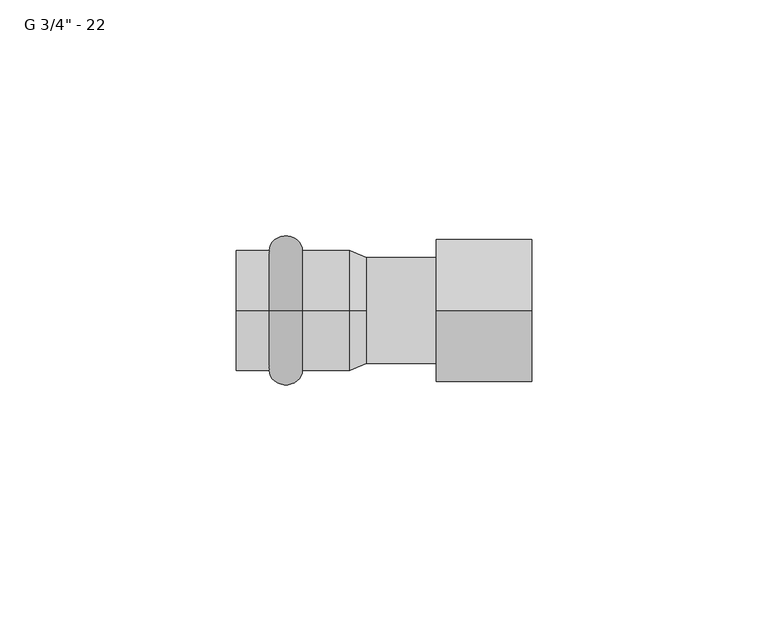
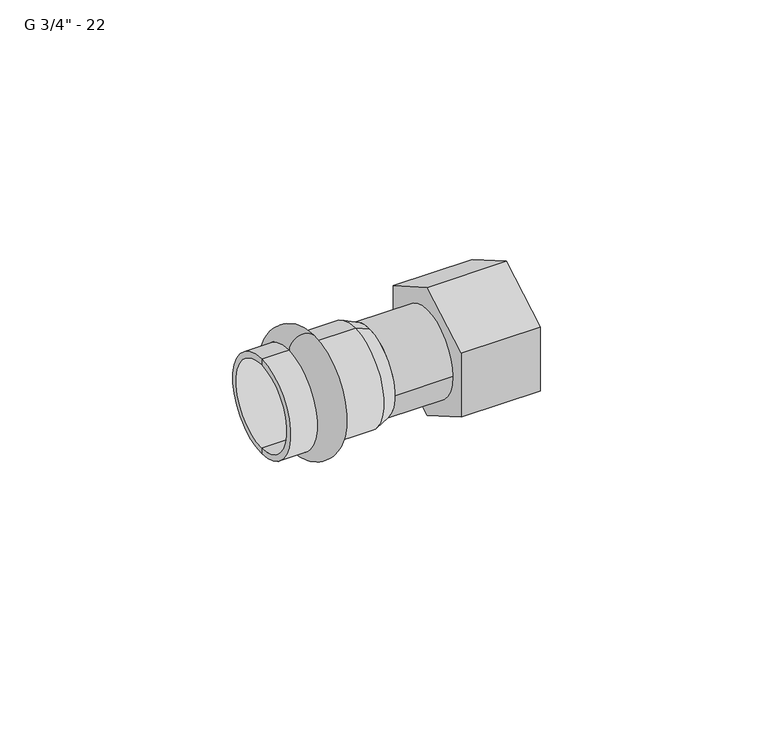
"""IFC4 building model written with IfcOpenShell, lengths in millimetres: pipe fitting geometry."""

from ifc_helpers import new_model, si_unit, point, frame, origin, origin_2d, place, context, project, spatial, polyline, circle_curve, ellipse_curve, trimmed, segment, composite_curve, outline, extrude, source, transform, mapped, element, save
from ifc_brep_helpers import plane_surface, cylinder_surface, revolved_surface, advanced_brep


def pipe_fitting_cfeb25f1(model_context):
    return source(origin(), model_context, "Body", "SolidModel", [
        advanced_brep(
        [(-17.0, 0.0, 12.75), (-17.0, 0.0, -12.75), (-10.0, 0.0, -12.75), (-10.0, 0.0, 12.75)],
        [
            (0, 1, circle_curve(frame((-17.0, 0.0, 0.0), z_axis=(-1.0, 0.0, 0.0), x_axis=(0.0, 0.0, -1.0)), 12.75)),
            (1, 2),
            (2, 3, circle_curve(frame((-10.0, 0.0, 0.0), z_axis=(1.0, 0.0, 0.0), x_axis=(0.0, 0.0, -1.0)), 12.75)),
            (3, 0),
            (1, 0, circle_curve(frame((-17.0, 0.0, 0.0), z_axis=(-1.0, 0.0, 0.0), x_axis=(0.0, 0.0, -1.0)), 12.75)),
            (3, 2, circle_curve(frame((-10.0, 0.0, 0.0), z_axis=(1.0, 0.0, 0.0), x_axis=(0.0, 0.0, -1.0)), 12.75)),
            (2, 1, ellipse_curve(frame((-13.5, 0.0, -12.75), z_axis=(0.0, 1.0, 0.0), x_axis=(-1.0, 0.0, 0.0)), 3.5, 3.1)),
            (0, 3, ellipse_curve(frame((-13.5, 0.0, 12.75), z_axis=(0.0, 1.0, 0.0), x_axis=(-1.0, 0.0, 0.0)), 3.5, 3.1)),
        ],
        [
            revolved_surface(polyline([(-10.0, 0.0, -12.75), (-17.0, 0.0, -12.75)]), (3.0, 0.0, 0.0), (1.0, 0.0, 0.0)),
            revolved_surface(trimmed(ellipse_curve(frame((-13.5, 0.0, -12.75), z_axis=(0.0, -1.0, 0.0), x_axis=(-1.0, 0.0, 0.0)), 3.5, 3.1), [point((-17.0, 0.0, -12.75))], [point((-10.0, 0.0, -12.75))], True, "CARTESIAN"), (3.0, 0.0, 0.0), (1.0, 0.0, 0.0)),
        ],
        [
            (0, [[1, 2, 3, 4]]),
            (0, [[5, -4, 6, -2]]),
            (1, [[-3, 7, -1, 8]]),
            (1, [[-6, -8, -5, -7]]),
        ],
    ),
        advanced_brep(
        [(3.5337785, 0.0, 11.25), (3.5337785, 0.0, -11.25), (0.0, 0.0, -12.75), (0.0, 0.0, 12.75), (-24.0, 0.0, 11.25), (-24.0, 0.0, -11.25), (-24.0, 0.0, 12.75), (-24.0, 0.0, -12.75)],
        [
            (0, 1, circle_curve(frame((3.5337785, 0.0, 0.0), z_axis=(-1.0, 0.0, 0.0), x_axis=(0.0, 0.0, -1.0)), 11.25)),
            (1, 2),
            (2, 3, circle_curve(frame((0.0, 0.0, 0.0), z_axis=(1.0, 0.0, 0.0), x_axis=(0.0, 0.0, -1.0)), 12.75)),
            (3, 0),
            (1, 0, circle_curve(frame((3.5337785, 0.0, 0.0), z_axis=(-1.0, 0.0, 0.0), x_axis=(0.0, 0.0, -1.0)), 11.25)),
            (3, 2, circle_curve(frame((0.0, 0.0, 0.0), z_axis=(1.0, 0.0, 0.0), x_axis=(0.0, 0.0, -1.0)), 12.75)),
            (4, 5, circle_curve(frame((-24.0, 0.0, 0.0), z_axis=(-1.0, 0.0, 0.0), x_axis=(0.0, 0.0, -1.0)), 11.25)),
            (5, 1),
            (0, 4),
            (5, 4, circle_curve(frame((-24.0, 0.0, 0.0), z_axis=(-1.0, 0.0, 0.0), x_axis=(0.0, 0.0, -1.0)), 11.25)),
            (6, 7, circle_curve(frame((-24.0, 0.0, 0.0), z_axis=(-1.0, 0.0, 0.0), x_axis=(0.0, 0.0, -1.0)), 12.75)),
            (7, 5),
            (4, 6),
            (7, 6, circle_curve(frame((-24.0, 0.0, 0.0), z_axis=(-1.0, 0.0, 0.0), x_axis=(0.0, 0.0, -1.0)), 12.75)),
            (2, 7),
            (6, 3),
        ],
        [
            revolved_surface(polyline([(0.0, 0.0, -12.75), (3.5337785, 0.0, -11.25)]), (3.0, 0.0, 0.0), (1.0, 0.0, 0.0)),
            revolved_surface(polyline([(3.5337785, 0.0, -11.25), (-24.0, 0.0, -11.25)]), (3.0, 0.0, 0.0), (1.0, 0.0, 0.0)),
            plane_surface(frame((-24.0, 0.0, 0.0), z_axis=(-1.0, 0.0, 0.0), x_axis=(0.0, 0.0, -1.0))),
            cylinder_surface(frame((3.0, 0.0, 0.0), z_axis=(1.0, 0.0, 0.0), x_axis=(0.0, 0.0, -1.0)), 12.75),
        ],
        [
            (0, [[1, 2, 3, 4]]),
            (0, [[5, -4, 6, -2]]),
            (1, [[7, 8, -1, 9]]),
            (1, [[10, -9, -5, -8]]),
            (2, [[11, 12, -7, 13]]),
            (2, [[14, -13, -10, -12]]),
            (3, [[-3, 15, -11, 16]]),
            (3, [[-6, -16, -14, -15]]),
        ],
    ),
        extrude(outline(composite_curve([segment(trimmed(circle_curve(origin_2d(), 11.25), [point((-11.25, 0.0))], [point((11.25, 0.0))], False, "CARTESIAN"), True, "CONTINUOUS"), segment(trimmed(circle_curve(origin_2d(), 11.25), [point((11.25, 0.0))], [point((-11.25, 0.0))], False, "CARTESIAN"), True, "CONTINUOUS")], self_intersect=False)), frame((3.5337785, 0.0, 0.0), z_axis=(1.0, 0.0, 0.0), x_axis=(0.0, 1.0, 0.0)), (0.0, 0.0, 1.0), 14.8),
        advanced_brep(
        [(38.5337785, -15.0, -8.660254), (18.3337785, -15.0, -8.660254), (18.3337785, 0.0, -17.3205081), (38.5337785, 0.0, -17.3205081), (18.3337785, 15.0, -8.660254), (38.5337785, 15.0, -8.660254), (38.5337785, 15.0, 8.660254), (18.3337785, 15.0, 8.660254), (18.3337785, 0.0, 17.3205081), (38.5337785, 0.0, 17.3205081), (18.3337785, -15.0, 8.660254), (38.5337785, -15.0, 8.660254), (38.5337785, -13.25, 0.0), (38.5337785, 13.25, 0.0), (18.3337785, -5.0, -2.8867513), (18.3337785, 0.0, -5.7735027), (18.3337785, 5.0, -2.8867513), (18.3337785, 5.0, 2.8867513), (18.3337785, 0.0, 5.7735027), (18.3337785, -5.0, 2.8867513), (23.1337785, -13.25, 0.0), (23.1337785, 13.25, 0.0), (23.1337785, 0.0, -5.7735027), (23.1337785, -5.0, -2.8867513), (23.1337785, -5.0, 2.8867513), (23.1337785, 0.0, 5.7735027), (23.1337785, 5.0, 2.8867513), (23.1337785, 5.0, -2.8867513)],
        [
            (0, 1),
            (1, 2),
            (2, 3),
            (3, 0),
            (2, 4),
            (4, 5),
            (5, 3),
            (6, 7),
            (7, 8),
            (8, 9),
            (9, 6),
            (8, 10),
            (10, 11),
            (11, 9),
            (4, 7),
            (6, 5),
            (11, 0),
            (12, 13, circle_curve(frame((38.5337785, 0.0, 0.0), z_axis=(-1.0, 0.0, 0.0), x_axis=(0.0, 1.0, 0.0)), 13.25)),
            (13, 12, circle_curve(frame((38.5337785, 0.0, 0.0), z_axis=(-1.0, 0.0, 0.0), x_axis=(0.0, 1.0, 0.0)), 13.25)),
            (1, 10),
            (14, 15),
            (15, 16),
            (16, 17),
            (17, 18),
            (18, 19),
            (19, 14),
            (20, 21, circle_curve(frame((23.1337785, 0.0, 0.0), z_axis=(1.0, 0.0, 0.0), x_axis=(0.0, 1.0, 0.0)), 13.25)),
            (21, 20, circle_curve(frame((23.1337785, 0.0, 0.0), z_axis=(1.0, 0.0, 0.0), x_axis=(0.0, 1.0, 0.0)), 13.25)),
            (22, 23),
            (23, 24),
            (24, 25),
            (25, 26),
            (26, 27),
            (27, 22),
            (21, 13),
            (12, 20),
            (14, 23),
            (22, 15),
            (27, 16),
            (17, 26),
            (25, 18),
            (24, 19),
        ],
        [
            plane_surface(frame((18.3337785, -15.0, -8.660254), z_axis=(0.0, -0.5000000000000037, -0.8660254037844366), x_axis=(0.0, 0.8660254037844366, -0.5000000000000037))),
            plane_surface(frame((18.3337785, 0.0, -17.3205081), z_axis=(0.0, 0.4999999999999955, -0.8660254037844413), x_axis=(0.0, 0.8660254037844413, 0.4999999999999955))),
            plane_surface(frame((18.3337785, 15.0, 8.660254), z_axis=(0.0, 0.5000000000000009, 0.8660254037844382), x_axis=(0.0, -0.8660254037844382, 0.5000000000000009))),
            plane_surface(frame((18.3337785, 0.0, 17.3205081), z_axis=(0.0, -0.4999999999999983, 0.8660254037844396), x_axis=(0.0, -0.8660254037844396, -0.4999999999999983))),
            plane_surface(frame((18.3337785, 15.0, -8.660254), z_axis=(0.0, 1.0, 0.0), x_axis=(0.0, 0.0, 1.0))),
            plane_surface(frame((38.5337785, -15.0, 8.660254), z_axis=(1.0, 0.0, 0.0), x_axis=(0.0, 0.0, -1.0))),
            plane_surface(frame((18.3337785, -5.0, 2.8867513), z_axis=(-1.0, 0.0, 0.0), x_axis=(0.0, 0.0, -1.0))),
            plane_surface(frame((18.3337785, -15.0, 8.660254), z_axis=(0.0, -1.0, 0.0), x_axis=(0.0, 0.0, -1.0))),
            plane_surface(frame((23.1337785, 13.25, 0.0), z_axis=(1.0, 0.0, 0.0), x_axis=(0.0, 0.0, -1.0))),
            revolved_surface(polyline([(38.5337785, 13.25, 0.0), (23.1337785, 13.25, 0.0)]), (23.1337785, 0.0, 0.0), (1.0, 0.0, 0.0)),
            plane_surface(frame((38.5337785, -5.0, -2.8867513), z_axis=(0.0, 0.5000000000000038, 0.8660254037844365), x_axis=(0.0, 0.8660254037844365, -0.5000000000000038))),
            plane_surface(frame((38.5337785, 0.0, -5.7735027), z_axis=(0.0, -0.49999999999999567, 0.8660254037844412), x_axis=(0.0, 0.8660254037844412, 0.49999999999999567))),
            plane_surface(frame((38.5337785, 5.0, 2.8867513), z_axis=(0.0, -0.5000000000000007, -0.8660254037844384), x_axis=(0.0, -0.8660254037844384, 0.5000000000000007))),
            plane_surface(frame((38.5337785, 0.0, 5.7735027), z_axis=(0.0, 0.49999999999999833, -0.8660254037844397), x_axis=(0.0, -0.8660254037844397, -0.49999999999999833))),
            plane_surface(frame((38.5337785, 5.0, -2.8867513), z_axis=(0.0, -1.0, 0.0), x_axis=(0.0, 0.0, 1.0))),
            plane_surface(frame((38.5337785, -5.0, 2.8867513), z_axis=(0.0, 1.0, 0.0), x_axis=(0.0, 0.0, -1.0))),
        ],
        [
            (0, [[1, 2, 3, 4]]),
            (1, [[-3, 5, 6, 7]]),
            (2, [[8, 9, 10, 11]]),
            (3, [[-10, 12, 13, 14]]),
            (4, [[-6, 15, -8, 16]]),
            (5, [[-4, -7, -16, -11, -14, 17], [18, 19]]),
            (6, [[-2, 20, -12, -9, -15, -5], [21, 22, 23, 24, 25, 26]]),
            (7, [[-1, -17, -13, -20]]),
            (8, [[27, 28], [29, 30, 31, 32, 33, 34]]),
            (9, [[-28, 35, -18, 36]]),
            (9, [[-27, -36, -19, -35]]),
            (10, [[-21, 37, -29, 38]]),
            (11, [[-22, -38, -34, 39]]),
            (12, [[-24, 40, -32, 41]]),
            (13, [[-25, -41, -31, 42]]),
            (14, [[-23, -39, -33, -40]]),
            (15, [[-26, -42, -30, -37]]),
        ],
    ),
    ])


if __name__ == "__main__":
    model = new_model("IFC4")
    model_context = context("Model", 3, world=origin())
    ifc_project = project(units=[si_unit("LENGTHUNIT", "METRE", prefix="MILLI")], contexts=[model_context])
    site = spatial("IfcSite", under=ifc_project)
    building = spatial("IfcBuilding", under=site)
    placement = place(None, origin())
    pipe_fitting_shape = pipe_fitting_cfeb25f1(model_context)
    element("IfcPipeFitting", 1, ObjectType="РЕХАУ_Пресс Муфта с накидной гайкой : G 3/4\" - 22", at=placement, inside=building, context=model_context, shape_type="MappedRepresentation", body=[
        mapped(pipe_fitting_shape, transform((0.0, 0.0, 0.0), x_axis=(1.0, 0.0, 0.0), y_axis=(0.0, 1.0, 0.0), z_axis=(0.0, 0.0, 1.0))),
    ])
    save(model, "model.ifc")
